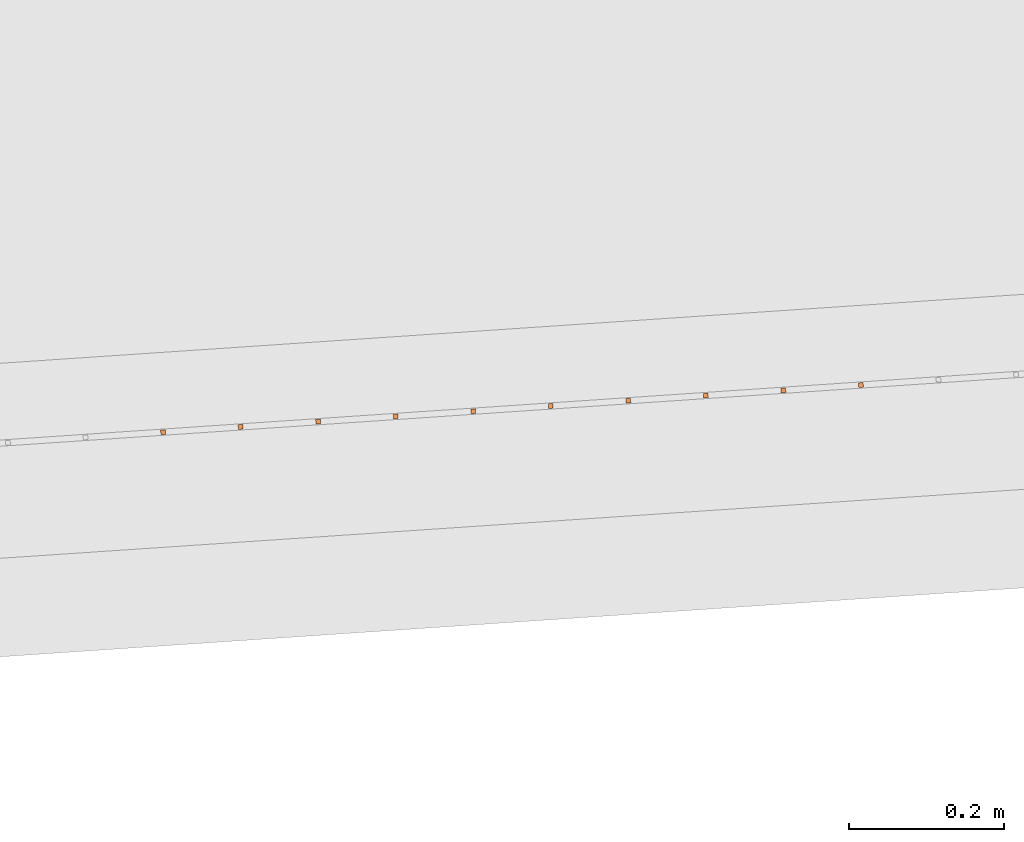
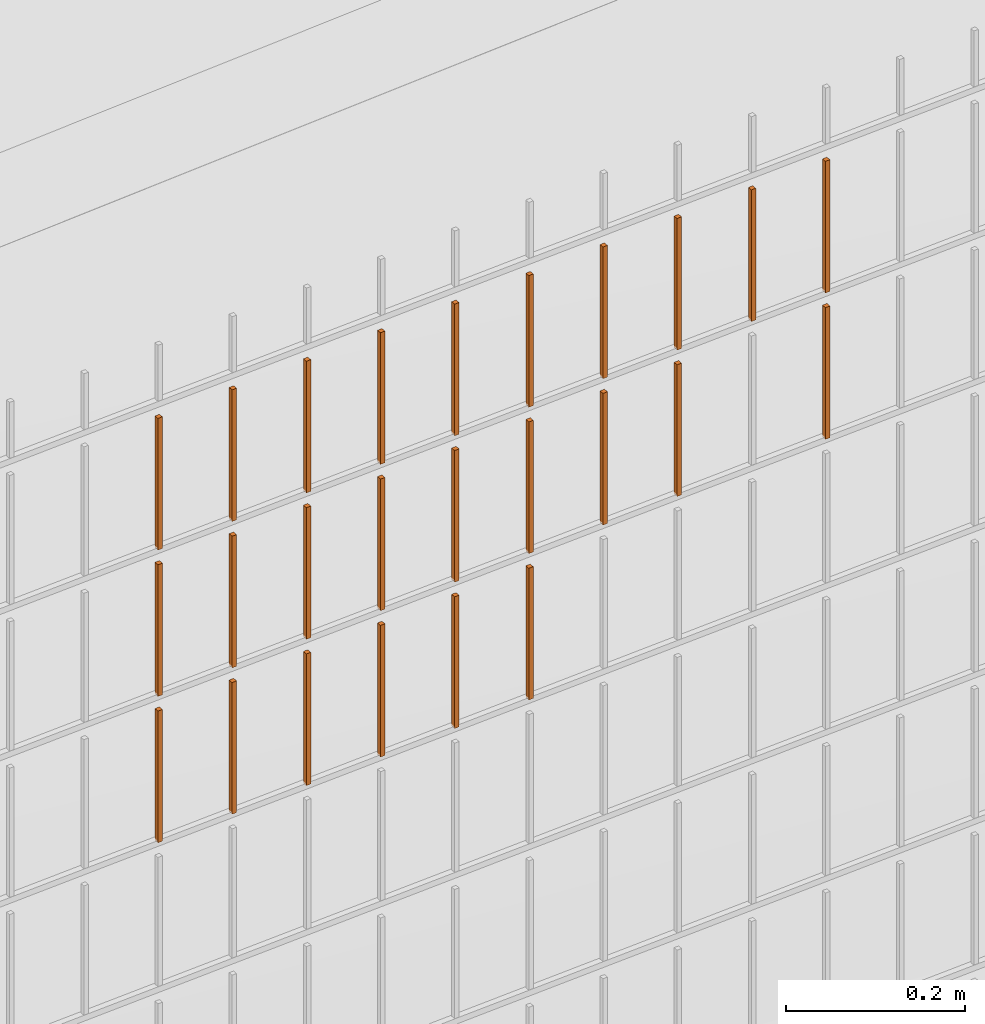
# One storey, part 391 of 1809: 25 proxies, 1 element without a shape of its own.
"""IFC2X3 building model written with IfcOpenShell, lengths in millimetres."""

from ifc_helpers import new_model, entity, si_unit, converted_unit, derived_unit, money_unit, direction, frame, origin_with_axes, place, context, subcontext, project, spatial, faceted_brep, source, transform, mapped, material, type_object, element, aggregate, save


model = new_model("IFC2X3")

# Units and contexts
model_context = context("Model", 3, precision=0.01, world=origin_with_axes(), true_north=direction((0.0, 1.0)))
body_context = subcontext(model_context, "Body", "Model", "MODEL_VIEW")
ifc_project = project(units=[si_unit("LENGTHUNIT", "METRE", prefix="MILLI"), si_unit("AREAUNIT", "SQUARE_METRE"), si_unit("VOLUMEUNIT", "CUBIC_METRE"), converted_unit("PLANEANGLEUNIT", "DEGREE", entity("IfcPlaneAngleMeasure", 0.0174532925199), si_unit("PLANEANGLEUNIT", "RADIAN"), dimensions=[0, 0, 0, 0, 0, 0, 0]), si_unit("SOLIDANGLEUNIT", "STERADIAN"), money_unit("EUR"), converted_unit("TIMEUNIT", "Year", entity("IfcTimeMeasure", 31556926.0), si_unit("TIMEUNIT", "SECOND"), dimensions=[0, 0, 1, 0, 0, 0, 0]), si_unit("MASSUNIT", "GRAM", prefix="KILO"), si_unit("THERMODYNAMICTEMPERATUREUNIT", "DEGREE_CELSIUS"), si_unit("LUMINOUSINTENSITYUNIT", "LUMEN"), si_unit("ENERGYUNIT", "JOULE", prefix="MEGA"), derived_unit("THERMALCONDUCTANCEUNIT", [(si_unit("POWERUNIT", "WATT"), 1), (si_unit("LENGTHUNIT", "METRE"), -1), (si_unit("THERMODYNAMICTEMPERATUREUNIT", "KELVIN"), -1)]), derived_unit("SPECIFICHEATCAPACITYUNIT", [(si_unit("ENERGYUNIT", "JOULE"), 1), (si_unit("MASSUNIT", "GRAM", prefix="KILO"), -1), (si_unit("THERMODYNAMICTEMPERATUREUNIT", "KELVIN"), -1)]), derived_unit("MASSDENSITYUNIT", [(si_unit("MASSUNIT", "GRAM", prefix="KILO"), 1), (si_unit("VOLUMEUNIT", "CUBIC_METRE"), -1)])], contexts=[model_context])

# Site, building, storey
site_placement = place(None, origin_with_axes())
site = spatial("IfcSite", under=ifc_project, at=site_placement, Name="Politse- ja Piirivalveameti ning Päästeameti ühishoone", CompositionType="ELEMENT")
building_placement = place(site_placement, origin_with_axes())
building = spatial("IfcBuilding", under=site, at=building_placement, Name="Politse- ja Piirivalveameti ning Päästeameti ühishoone", CompositionType="ELEMENT")
storey_placement = place(building_placement, origin_with_axes())
storey = spatial("IfcBuildingStorey", under=building, at=storey_placement, Name="Esimene korrus", CompositionType="ELEMENT", Elevation=0.0)

# Proxies
building_element_proxy_type_1 = type_object("IfcBuildingElementProxyType", Name="Railing Type", PredefinedType="NOTDEFINED")
proxy_1_placement = place(storey_placement, frame((89252.001212, -29183.4766571, 203.661247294), z_axis=(0.0, 0.0, 1.0), x_axis=(1.0, 0.0, 0.0)))
proxy_1 = element("IfcBuildingElementProxy", 1, at=proxy_1_placement, inside=storey, type_object=building_element_proxy_type_1, Name="PIIRDEAED")
ifc_material = material(Name="ET-03_Raud")
building_element_proxy_type_2 = type_object("IfcBuildingElementProxyType", Name="IfcBuildingElementProxy", PredefinedType="NOTDEFINED")
shared_shape_1 = source(origin_with_axes(), body_context, "Body", "Brep", [
    faceted_brep([(3.0, 3.0, -0.000752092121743), (-3.0, 3.0, -0.000752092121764), (-3.0, 3.0, 179.99926046), (3.0, 3.0, 179.99926046), (3.0, -3.0, 0.000752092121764), (-3.0, -3.0, 0.000752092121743), (-3.0, -3.0, 180.000764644), (3.0, -3.0, 180.000764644)], [[[0, 1, 2, 3]], [[0, 4, 5, 1]], [[1, 5, 6, 2]], [[3, 2, 6, 7]], [[4, 0, 3, 7]], [[5, 4, 7, 6]]]),
])
proxy_2_placement = place(proxy_1_placement, frame((-13595.7081064, -18216.1135358, 1423.81821062), z_axis=(0.0, 0.0, 1.0), x_axis=(1.0, 0.0, 0.0)))
proxy_2 = element("IfcBuildingElementProxy", 2, at=proxy_2_placement, type_object=building_element_proxy_type_2, material=ifc_material, Name="BALUSTER - 001", context=body_context, shape_type="MappedRepresentation", body=[
    mapped(shared_shape_1, transform((0.0, 0.0, 0.0), x_axis=(-0.0673926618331, 0.997726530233, 0.0), y_axis=(-0.997726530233, -0.0673926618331, 0.0), z_axis=(0.0, 0.0, 1.0))),
])
shared_shape_2 = source(origin_with_axes(), body_context, "Body", "Brep", [
    faceted_brep([(3.0, 3.0, -0.000752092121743), (-3.0, 3.0, -0.000752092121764), (-3.0, 3.0, 179.99926046), (3.0, 3.0, 179.99926046), (3.0, -3.0, 0.000752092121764), (-3.0, -3.0, 0.000752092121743), (-3.0, -3.0, 180.000764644), (3.0, -3.0, 180.000764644)], [[[0, 1, 2, 3]], [[0, 4, 5, 1]], [[1, 5, 6, 2]], [[3, 2, 6, 7]], [[4, 0, 3, 7]], [[5, 4, 7, 6]]]),
])
proxy_3_placement = place(proxy_1_placement, frame((-13595.7081064, -18216.1135358, 1823.81821062), z_axis=(0.0, 0.0, 1.0), x_axis=(1.0, 0.0, 0.0)))
proxy_3 = element("IfcBuildingElementProxy", 3, at=proxy_3_placement, type_object=building_element_proxy_type_2, material=ifc_material, Name="BALUSTER - 001", context=body_context, shape_type="MappedRepresentation", body=[
    mapped(shared_shape_2, transform((0.0, 0.0, 0.0), x_axis=(-0.0673926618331, 0.997726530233, 0.0), y_axis=(-0.997726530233, -0.0673926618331, 0.0), z_axis=(0.0, 0.0, 1.0))),
])
proxy_4_placement = place(proxy_1_placement, frame((-13795.2534124, -18229.5920682, 1823.76807115), z_axis=(0.0, 0.0, 1.0), x_axis=(1.0, 0.0, 0.0)))
proxy_4 = element("IfcBuildingElementProxy", 4, at=proxy_4_placement, type_object=building_element_proxy_type_2, material=ifc_material, Name="BALUSTER - 001", context=body_context, shape_type="MappedRepresentation", body=[
    mapped(shared_shape_2, transform((0.0, 0.0, 0.0), x_axis=(-0.0673926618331, 0.997726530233, 0.0), y_axis=(-0.997726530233, -0.0673926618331, 0.0), z_axis=(0.0, 0.0, 1.0))),
])
shared_shape_3 = source(origin_with_axes(), body_context, "Body", "Brep", [
    faceted_brep([(3.0, 3.0, -0.000752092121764), (-3.0, 3.0, -0.000752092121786), (-3.0, 3.0, 179.99926046), (3.0, 3.0, 179.99926046), (3.0, -3.0, 0.000752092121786), (-3.0, -3.0, 0.000752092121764), (-3.0, -3.0, 180.000764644), (3.0, -3.0, 180.000764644)], [[[0, 1, 2, 3]], [[0, 4, 5, 1]], [[1, 5, 6, 2]], [[3, 2, 6, 7]], [[4, 0, 3, 7]], [[5, 4, 7, 6]]]),
])
proxy_5_placement = place(proxy_1_placement, frame((-14094.5713715, -18249.8098668, 1823.69286193), z_axis=(0.0, 0.0, 1.0), x_axis=(1.0, 0.0, 0.0)))
proxy_5 = element("IfcBuildingElementProxy", 5, at=proxy_5_placement, type_object=building_element_proxy_type_2, material=ifc_material, Name="BALUSTER - 001", context=body_context, shape_type="MappedRepresentation", body=[
    mapped(shared_shape_3, transform((0.0, 0.0, 0.0), x_axis=(-0.0673926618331, 0.997726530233, 0.0), y_axis=(-0.997726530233, -0.0673926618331, 0.0), z_axis=(0.0, 0.0, 1.0))),
])
shared_shape_4 = source(origin_with_axes(), body_context, "Body", "Brep", [
    faceted_brep([(3.0, 3.0, -0.000752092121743), (-3.0, 3.0, -0.000752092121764), (-3.0, 3.0, 179.99926046), (3.0, 3.0, 179.99926046), (3.0, -3.0, 0.000752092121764), (-3.0, -3.0, 0.000752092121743), (-3.0, -3.0, 180.000764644), (3.0, -3.0, 180.000764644)], [[[0, 1, 2, 3]], [[0, 4, 5, 1]], [[1, 5, 6, 2]], [[3, 2, 6, 7]], [[4, 0, 3, 7]], [[5, 4, 7, 6]]]),
])
proxy_6_placement = place(proxy_1_placement, frame((-13994.7987184, -18243.0706006, 1823.71793167), z_axis=(0.0, 0.0, 1.0), x_axis=(1.0, 0.0, 0.0)))
proxy_6 = element("IfcBuildingElementProxy", 6, at=proxy_6_placement, type_object=building_element_proxy_type_2, material=ifc_material, Name="BALUSTER - 001", context=body_context, shape_type="MappedRepresentation", body=[
    mapped(shared_shape_4, transform((0.0, 0.0, 0.0), x_axis=(-0.0673926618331, 0.997726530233, 0.0), y_axis=(-0.997726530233, -0.0673926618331, 0.0), z_axis=(0.0, 0.0, 1.0))),
])
shared_shape_5 = source(origin_with_axes(), body_context, "Body", "Brep", [
    faceted_brep([(3.0, 3.0, -0.000752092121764), (-3.0, 3.0, -0.000752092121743), (-3.0, 3.0, 179.99926046), (3.0, 3.0, 179.99926046), (3.0, -3.0, 0.000752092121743), (-3.0, -3.0, 0.000752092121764), (-3.0, -3.0, 180.000764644), (3.0, -3.0, 180.000764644)], [[[0, 1, 2, 3]], [[0, 4, 5, 1]], [[1, 5, 6, 2]], [[3, 2, 6, 7]], [[4, 0, 3, 7]], [[5, 4, 7, 6]]]),
])
proxy_7_placement = place(proxy_1_placement, frame((-13196.6174943, -18189.1564711, 1823.91848957), z_axis=(0.0, 0.0, 1.0), x_axis=(1.0, 0.0, 0.0)))
proxy_7 = element("IfcBuildingElementProxy", 7, at=proxy_7_placement, type_object=building_element_proxy_type_2, material=ifc_material, Name="BALUSTER - 001", context=body_context, shape_type="MappedRepresentation", body=[
    mapped(shared_shape_5, transform((0.0, 0.0, 0.0), x_axis=(-0.0673926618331, 0.997726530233, 0.0), y_axis=(-0.997726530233, -0.0673926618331, 0.0), z_axis=(0.0, 0.0, 1.0))),
])
shared_shape_6 = source(origin_with_axes(), body_context, "Body", "Brep", [
    faceted_brep([(3.0, 3.0, -0.000752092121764), (-3.0, 3.0, -0.000752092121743), (-3.0, 3.0, 179.99926046), (3.0, 3.0, 179.99926046), (3.0, -3.0, 0.000752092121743), (-3.0, -3.0, 0.000752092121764), (-3.0, -3.0, 180.000764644), (3.0, -3.0, 180.000764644)], [[[0, 1, 2, 3]], [[0, 4, 5, 1]], [[1, 5, 6, 2]], [[3, 2, 6, 7]], [[4, 0, 3, 7]], [[5, 4, 7, 6]]]),
])
proxy_8_placement = place(proxy_1_placement, frame((-13396.1628003, -18202.6350035, 1623.8683501), z_axis=(0.0, 0.0, 1.0), x_axis=(1.0, 0.0, 0.0)))
proxy_8 = element("IfcBuildingElementProxy", 8, at=proxy_8_placement, type_object=building_element_proxy_type_2, material=ifc_material, Name="BALUSTER - 001", context=body_context, shape_type="MappedRepresentation", body=[
    mapped(shared_shape_6, transform((0.0, 0.0, 0.0), x_axis=(-0.0673926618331, 0.997726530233, 0.0), y_axis=(-0.997726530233, -0.0673926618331, 0.0), z_axis=(0.0, 0.0, 1.0))),
])
shared_shape_7 = source(origin_with_axes(), body_context, "Body", "Brep", [
    faceted_brep([(3.0, 3.0, -0.000752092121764), (-3.0, 3.0, -0.000752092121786), (-3.0, 3.0, 179.99926046), (3.0, 3.0, 179.99926046), (3.0, -3.0, 0.000752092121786), (-3.0, -3.0, 0.000752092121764), (-3.0, -3.0, 180.000764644), (3.0, -3.0, 180.000764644)], [[[0, 1, 2, 3]], [[0, 4, 5, 1]], [[1, 5, 6, 2]], [[3, 2, 6, 7]], [[4, 0, 3, 7]], [[5, 4, 7, 6]]]),
])
proxy_9_placement = place(proxy_1_placement, frame((-14094.5713715, -18249.8098668, 1423.69286193), z_axis=(0.0, 0.0, 1.0), x_axis=(1.0, 0.0, 0.0)))
proxy_9 = element("IfcBuildingElementProxy", 9, at=proxy_9_placement, type_object=building_element_proxy_type_2, material=ifc_material, Name="BALUSTER - 001", context=body_context, shape_type="MappedRepresentation", body=[
    mapped(shared_shape_7, transform((0.0, 0.0, 0.0), x_axis=(-0.0673926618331, 0.997726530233, 0.0), y_axis=(-0.997726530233, -0.0673926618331, 0.0), z_axis=(0.0, 0.0, 1.0))),
])
proxy_10_placement = place(proxy_1_placement, frame((-14094.5713715, -18249.8098668, 1623.69286193), z_axis=(0.0, 0.0, 1.0), x_axis=(1.0, 0.0, 0.0)))
proxy_10 = element("IfcBuildingElementProxy", 10, at=proxy_10_placement, type_object=building_element_proxy_type_2, material=ifc_material, Name="BALUSTER - 001", context=body_context, shape_type="MappedRepresentation", body=[
    mapped(shared_shape_7, transform((0.0, 0.0, 0.0), x_axis=(-0.0673926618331, 0.997726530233, 0.0), y_axis=(-0.997726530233, -0.0673926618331, 0.0), z_axis=(0.0, 0.0, 1.0))),
])
shared_shape_8 = source(origin_with_axes(), body_context, "Body", "Brep", [
    faceted_brep([(3.0, 3.0, -0.000752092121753), (-3.0, 3.0, -0.000752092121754), (-3.0, 3.0, 179.99926046), (3.0, 3.0, 179.99926046), (3.0, -3.0, 0.000752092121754), (-3.0, -3.0, 0.000752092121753), (-3.0, -3.0, 180.000764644), (3.0, -3.0, 180.000764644)], [[[0, 1, 2, 3]], [[0, 4, 5, 1]], [[1, 5, 6, 2]], [[3, 2, 6, 7]], [[4, 0, 3, 7]], [[5, 4, 7, 6]]]),
])
proxy_11_placement = place(proxy_1_placement, frame((-13495.9354533, -18209.3742697, 1823.84328036), z_axis=(0.0, 0.0, 1.0), x_axis=(1.0, 0.0, 0.0)))
proxy_11 = element("IfcBuildingElementProxy", 11, at=proxy_11_placement, type_object=building_element_proxy_type_2, material=ifc_material, Name="BALUSTER - 001", context=body_context, shape_type="MappedRepresentation", body=[
    mapped(shared_shape_8, transform((0.0, 0.0, 0.0), x_axis=(-0.0673926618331, 0.997726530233, 0.0), y_axis=(-0.997726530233, -0.0673926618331, 0.0), z_axis=(0.0, 0.0, 1.0))),
])
shared_shape_9 = source(origin_with_axes(), body_context, "Body", "Brep", [
    faceted_brep([(3.0, 3.0, -0.000752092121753), (-3.0, 3.0, -0.000752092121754), (-3.0, 3.0, 179.99926046), (3.0, 3.0, 179.99926046), (3.0, -3.0, 0.000752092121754), (-3.0, -3.0, 0.000752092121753), (-3.0, -3.0, 180.000764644), (3.0, -3.0, 180.000764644)], [[[0, 1, 2, 3]], [[0, 4, 5, 1]], [[1, 5, 6, 2]], [[3, 2, 6, 7]], [[4, 0, 3, 7]], [[5, 4, 7, 6]]]),
])
proxy_12_placement = place(proxy_1_placement, frame((-13495.9354533, -18209.3742697, 1623.84328036), z_axis=(0.0, 0.0, 1.0), x_axis=(1.0, 0.0, 0.0)))
proxy_12 = element("IfcBuildingElementProxy", 12, at=proxy_12_placement, type_object=building_element_proxy_type_2, material=ifc_material, Name="BALUSTER - 001", context=body_context, shape_type="MappedRepresentation", body=[
    mapped(shared_shape_9, transform((0.0, 0.0, 0.0), x_axis=(-0.0673926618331, 0.997726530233, 0.0), y_axis=(-0.997726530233, -0.0673926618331, 0.0), z_axis=(0.0, 0.0, 1.0))),
])
shared_shape_10 = source(origin_with_axes(), body_context, "Body", "Brep", [
    faceted_brep([(3.0, 3.0, -0.000752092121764), (-3.0, 3.0, -0.000752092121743), (-3.0, 3.0, 179.99926046), (3.0, 3.0, 179.99926046), (3.0, -3.0, 0.000752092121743), (-3.0, -3.0, 0.000752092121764), (-3.0, -3.0, 180.000764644), (3.0, -3.0, 180.000764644)], [[[0, 1, 2, 3]], [[0, 4, 5, 1]], [[1, 5, 6, 2]], [[3, 2, 6, 7]], [[4, 0, 3, 7]], [[5, 4, 7, 6]]]),
])
proxy_13_placement = place(proxy_1_placement, frame((-13196.6174943, -18189.1564711, 1623.91848957), z_axis=(0.0, 0.0, 1.0), x_axis=(1.0, 0.0, 0.0)))
proxy_13 = element("IfcBuildingElementProxy", 13, at=proxy_13_placement, type_object=building_element_proxy_type_2, material=ifc_material, Name="BALUSTER - 001", context=body_context, shape_type="MappedRepresentation", body=[
    mapped(shared_shape_10, transform((0.0, 0.0, 0.0), x_axis=(-0.0673926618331, 0.997726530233, 0.0), y_axis=(-0.997726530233, -0.0673926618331, 0.0), z_axis=(0.0, 0.0, 1.0))),
])
proxy_14_placement = place(proxy_1_placement, frame((-13396.1628003, -18202.6350035, 1823.8683501), z_axis=(0.0, 0.0, 1.0), x_axis=(1.0, 0.0, 0.0)))
proxy_14 = element("IfcBuildingElementProxy", 14, at=proxy_14_placement, type_object=building_element_proxy_type_2, material=ifc_material, Name="BALUSTER - 001", context=body_context, shape_type="MappedRepresentation", body=[
    mapped(shared_shape_10, transform((0.0, 0.0, 0.0), x_axis=(-0.0673926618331, 0.997726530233, 0.0), y_axis=(-0.997726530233, -0.0673926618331, 0.0), z_axis=(0.0, 0.0, 1.0))),
])
shared_shape_11 = source(origin_with_axes(), body_context, "Body", "Brep", [
    faceted_brep([(3.0, 3.0, -0.000752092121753), (-3.0, 3.0, -0.000752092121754), (-3.0, 3.0, 179.99926046), (3.0, 3.0, 179.99926046), (3.0, -3.0, 0.000752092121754), (-3.0, -3.0, 0.000752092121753), (-3.0, -3.0, 180.000764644), (3.0, -3.0, 180.000764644)], [[[0, 1, 2, 3]], [[0, 4, 5, 1]], [[1, 5, 6, 2]], [[3, 2, 6, 7]], [[4, 0, 3, 7]], [[5, 4, 7, 6]]]),
])
proxy_15_placement = place(proxy_1_placement, frame((-13895.0260654, -18236.3313344, 1823.74300141), z_axis=(0.0, 0.0, 1.0), x_axis=(1.0, 0.0, 0.0)))
proxy_15 = element("IfcBuildingElementProxy", 15, at=proxy_15_placement, type_object=building_element_proxy_type_2, material=ifc_material, Name="BALUSTER - 001", context=body_context, shape_type="MappedRepresentation", body=[
    mapped(shared_shape_11, transform((0.0, 0.0, 0.0), x_axis=(-0.0673926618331, 0.997726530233, 0.0), y_axis=(-0.997726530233, -0.0673926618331, 0.0), z_axis=(0.0, 0.0, 1.0))),
])
shared_shape_12 = source(origin_with_axes(), body_context, "Body", "Brep", [
    faceted_brep([(3.0, 3.0, -0.000752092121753), (-3.0, 3.0, -0.000752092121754), (-3.0, 3.0, 179.99926046), (3.0, 3.0, 179.99926046), (3.0, -3.0, 0.000752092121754), (-3.0, -3.0, 0.000752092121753), (-3.0, -3.0, 180.000764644), (3.0, -3.0, 180.000764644)], [[[0, 1, 2, 3]], [[0, 4, 5, 1]], [[1, 5, 6, 2]], [[3, 2, 6, 7]], [[4, 0, 3, 7]], [[5, 4, 7, 6]]]),
])
proxy_16_placement = place(proxy_1_placement, frame((-13895.0260654, -18236.3313344, 1423.74300141), z_axis=(0.0, 0.0, 1.0), x_axis=(1.0, 0.0, 0.0)))
proxy_16 = element("IfcBuildingElementProxy", 16, at=proxy_16_placement, type_object=building_element_proxy_type_2, material=ifc_material, Name="BALUSTER - 001", context=body_context, shape_type="MappedRepresentation", body=[
    mapped(shared_shape_12, transform((0.0, 0.0, 0.0), x_axis=(-0.0673926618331, 0.997726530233, 0.0), y_axis=(-0.997726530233, -0.0673926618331, 0.0), z_axis=(0.0, 0.0, 1.0))),
])
shared_shape_13 = source(origin_with_axes(), body_context, "Body", "Brep", [
    faceted_brep([(3.0, 3.0, -0.000752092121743), (-3.0, 3.0, -0.000752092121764), (-3.0, 3.0, 179.99926046), (3.0, 3.0, 179.99926046), (3.0, -3.0, 0.000752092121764), (-3.0, -3.0, 0.000752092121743), (-3.0, -3.0, 180.000764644), (3.0, -3.0, 180.000764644)], [[[0, 1, 2, 3]], [[0, 4, 5, 1]], [[1, 5, 6, 2]], [[3, 2, 6, 7]], [[4, 0, 3, 7]], [[5, 4, 7, 6]]]),
])
proxy_17_placement = place(proxy_1_placement, frame((-13296.3901473, -18195.8957373, 1823.89341983), z_axis=(0.0, 0.0, 1.0), x_axis=(1.0, 0.0, 0.0)))
proxy_17 = element("IfcBuildingElementProxy", 17, at=proxy_17_placement, type_object=building_element_proxy_type_2, material=ifc_material, Name="BALUSTER - 001", context=body_context, shape_type="MappedRepresentation", body=[
    mapped(shared_shape_13, transform((0.0, 0.0, 0.0), x_axis=(-0.0673926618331, 0.997726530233, 0.0), y_axis=(-0.997726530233, -0.0673926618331, 0.0), z_axis=(0.0, 0.0, 1.0))),
])
shared_shape_14 = source(origin_with_axes(), body_context, "Body", "Brep", [
    faceted_brep([(3.0, 3.0, -0.000752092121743), (-3.0, 3.0, -0.000752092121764), (-3.0, 3.0, 179.99926046), (3.0, 3.0, 179.99926046), (3.0, -3.0, 0.000752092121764), (-3.0, -3.0, 0.000752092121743), (-3.0, -3.0, 180.000764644), (3.0, -3.0, 180.000764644)], [[[0, 1, 2, 3]], [[0, 4, 5, 1]], [[1, 5, 6, 2]], [[3, 2, 6, 7]], [[4, 0, 3, 7]], [[5, 4, 7, 6]]]),
])
proxy_18_placement = place(proxy_1_placement, frame((-13795.2534124, -18229.5920682, 1423.76807115), z_axis=(0.0, 0.0, 1.0), x_axis=(1.0, 0.0, 0.0)))
proxy_18 = element("IfcBuildingElementProxy", 18, at=proxy_18_placement, type_object=building_element_proxy_type_2, material=ifc_material, Name="BALUSTER - 001", context=body_context, shape_type="MappedRepresentation", body=[
    mapped(shared_shape_14, transform((0.0, 0.0, 0.0), x_axis=(-0.0673926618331, 0.997726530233, 0.0), y_axis=(-0.997726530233, -0.0673926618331, 0.0), z_axis=(0.0, 0.0, 1.0))),
])
proxy_19_placement = place(proxy_1_placement, frame((-13795.2534124, -18229.5920682, 1623.76807115), z_axis=(0.0, 0.0, 1.0), x_axis=(1.0, 0.0, 0.0)))
proxy_19 = element("IfcBuildingElementProxy", 19, at=proxy_19_placement, type_object=building_element_proxy_type_2, material=ifc_material, Name="BALUSTER - 001", context=body_context, shape_type="MappedRepresentation", body=[
    mapped(shared_shape_14, transform((0.0, 0.0, 0.0), x_axis=(-0.0673926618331, 0.997726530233, 0.0), y_axis=(-0.997726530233, -0.0673926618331, 0.0), z_axis=(0.0, 0.0, 1.0))),
])
shared_shape_15 = source(origin_with_axes(), body_context, "Body", "Brep", [
    faceted_brep([(3.0, 3.0, -0.000752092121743), (-3.0, 3.0, -0.000752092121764), (-3.0, 3.0, 179.99926046), (3.0, 3.0, 179.99926046), (3.0, -3.0, 0.000752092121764), (-3.0, -3.0, 0.000752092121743), (-3.0, -3.0, 180.000764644), (3.0, -3.0, 180.000764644)], [[[0, 1, 2, 3]], [[0, 4, 5, 1]], [[1, 5, 6, 2]], [[3, 2, 6, 7]], [[4, 0, 3, 7]], [[5, 4, 7, 6]]]),
])
proxy_20_placement = place(proxy_1_placement, frame((-13595.7081064, -18216.1135358, 1623.81821062), z_axis=(0.0, 0.0, 1.0), x_axis=(1.0, 0.0, 0.0)))
proxy_20 = element("IfcBuildingElementProxy", 20, at=proxy_20_placement, type_object=building_element_proxy_type_2, material=ifc_material, Name="BALUSTER - 001", context=body_context, shape_type="MappedRepresentation", body=[
    mapped(shared_shape_15, transform((0.0, 0.0, 0.0), x_axis=(-0.0673926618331, 0.997726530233, 0.0), y_axis=(-0.997726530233, -0.0673926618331, 0.0), z_axis=(0.0, 0.0, 1.0))),
])
shared_shape_16 = source(origin_with_axes(), body_context, "Body", "Brep", [
    faceted_brep([(3.0, 3.0, -0.000752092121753), (-3.0, 3.0, -0.000752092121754), (-3.0, 3.0, 179.99926046), (3.0, 3.0, 179.99926046), (3.0, -3.0, 0.000752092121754), (-3.0, -3.0, 0.000752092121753), (-3.0, -3.0, 180.000764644), (3.0, -3.0, 180.000764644)], [[[0, 1, 2, 3]], [[0, 4, 5, 1]], [[1, 5, 6, 2]], [[3, 2, 6, 7]], [[4, 0, 3, 7]], [[5, 4, 7, 6]]]),
])
proxy_21_placement = place(proxy_1_placement, frame((-13895.0260654, -18236.3313344, 1623.74300141), z_axis=(0.0, 0.0, 1.0), x_axis=(1.0, 0.0, 0.0)))
proxy_21 = element("IfcBuildingElementProxy", 21, at=proxy_21_placement, type_object=building_element_proxy_type_2, material=ifc_material, Name="BALUSTER - 001", context=body_context, shape_type="MappedRepresentation", body=[
    mapped(shared_shape_16, transform((0.0, 0.0, 0.0), x_axis=(-0.0673926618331, 0.997726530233, 0.0), y_axis=(-0.997726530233, -0.0673926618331, 0.0), z_axis=(0.0, 0.0, 1.0))),
])
shared_shape_17 = source(origin_with_axes(), body_context, "Body", "Brep", [
    faceted_brep([(3.0, 3.0, -0.000752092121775), (-3.0, 3.0, -0.000752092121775), (-3.0, 3.0, 179.99926046), (3.0, 3.0, 179.99926046), (3.0, -3.0, 0.000752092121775), (-3.0, -3.0, 0.000752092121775), (-3.0, -3.0, 180.000764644), (3.0, -3.0, 180.000764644)], [[[0, 1, 2, 3]], [[0, 4, 5, 1]], [[1, 5, 6, 2]], [[3, 2, 6, 7]], [[4, 0, 3, 7]], [[5, 4, 7, 6]]]),
])
proxy_22_placement = place(proxy_1_placement, frame((-13695.4807594, -18222.852802, 1823.79314088), z_axis=(0.0, 0.0, 1.0), x_axis=(1.0, 0.0, 0.0)))
proxy_22 = element("IfcBuildingElementProxy", 22, at=proxy_22_placement, type_object=building_element_proxy_type_2, material=ifc_material, Name="BALUSTER - 001", context=body_context, shape_type="MappedRepresentation", body=[
    mapped(shared_shape_17, transform((0.0, 0.0, 0.0), x_axis=(-0.0673926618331, 0.997726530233, 0.0), y_axis=(-0.997726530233, -0.0673926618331, 0.0), z_axis=(0.0, 0.0, 1.0))),
])
shared_shape_18 = source(origin_with_axes(), body_context, "Body", "Brep", [
    faceted_brep([(3.0, 3.0, -0.000752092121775), (-3.0, 3.0, -0.000752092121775), (-3.0, 3.0, 179.99926046), (3.0, 3.0, 179.99926046), (3.0, -3.0, 0.000752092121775), (-3.0, -3.0, 0.000752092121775), (-3.0, -3.0, 180.000764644), (3.0, -3.0, 180.000764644)], [[[0, 1, 2, 3]], [[0, 4, 5, 1]], [[1, 5, 6, 2]], [[3, 2, 6, 7]], [[4, 0, 3, 7]], [[5, 4, 7, 6]]]),
])
proxy_23_placement = place(proxy_1_placement, frame((-13695.4807594, -18222.852802, 1423.79314088), z_axis=(0.0, 0.0, 1.0), x_axis=(1.0, 0.0, 0.0)))
proxy_23 = element("IfcBuildingElementProxy", 23, at=proxy_23_placement, type_object=building_element_proxy_type_2, material=ifc_material, Name="BALUSTER - 001", context=body_context, shape_type="MappedRepresentation", body=[
    mapped(shared_shape_18, transform((0.0, 0.0, 0.0), x_axis=(-0.0673926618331, 0.997726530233, 0.0), y_axis=(-0.997726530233, -0.0673926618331, 0.0), z_axis=(0.0, 0.0, 1.0))),
])
proxy_24_placement = place(proxy_1_placement, frame((-13695.4807594, -18222.852802, 1623.79314088), z_axis=(0.0, 0.0, 1.0), x_axis=(1.0, 0.0, 0.0)))
proxy_24 = element("IfcBuildingElementProxy", 24, at=proxy_24_placement, type_object=building_element_proxy_type_2, material=ifc_material, Name="BALUSTER - 001", context=body_context, shape_type="MappedRepresentation", body=[
    mapped(shared_shape_18, transform((0.0, 0.0, 0.0), x_axis=(-0.0673926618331, 0.997726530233, 0.0), y_axis=(-0.997726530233, -0.0673926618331, 0.0), z_axis=(0.0, 0.0, 1.0))),
])
shared_shape_19 = source(origin_with_axes(), body_context, "Body", "Brep", [
    faceted_brep([(3.0, 3.0, -0.000752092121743), (-3.0, 3.0, -0.000752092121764), (-3.0, 3.0, 179.99926046), (3.0, 3.0, 179.99926046), (3.0, -3.0, 0.000752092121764), (-3.0, -3.0, 0.000752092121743), (-3.0, -3.0, 180.000764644), (3.0, -3.0, 180.000764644)], [[[0, 1, 2, 3]], [[0, 4, 5, 1]], [[1, 5, 6, 2]], [[3, 2, 6, 7]], [[4, 0, 3, 7]], [[5, 4, 7, 6]]]),
])
proxy_25_placement = place(proxy_1_placement, frame((-13994.7987184, -18243.0706006, 1423.71793167), z_axis=(0.0, 0.0, 1.0), x_axis=(1.0, 0.0, 0.0)))
proxy_25 = element("IfcBuildingElementProxy", 25, at=proxy_25_placement, type_object=building_element_proxy_type_2, material=ifc_material, Name="BALUSTER - 001", context=body_context, shape_type="MappedRepresentation", body=[
    mapped(shared_shape_19, transform((0.0, 0.0, 0.0), x_axis=(-0.0673926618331, 0.997726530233, 0.0), y_axis=(-0.997726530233, -0.0673926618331, 0.0), z_axis=(0.0, 0.0, 1.0))),
])
proxy_26_placement = place(proxy_1_placement, frame((-13994.7987184, -18243.0706006, 1623.71793167), z_axis=(0.0, 0.0, 1.0), x_axis=(1.0, 0.0, 0.0)))
proxy_26 = element("IfcBuildingElementProxy", 26, at=proxy_26_placement, type_object=building_element_proxy_type_2, material=ifc_material, Name="BALUSTER - 001", context=body_context, shape_type="MappedRepresentation", body=[
    mapped(shared_shape_19, transform((0.0, 0.0, 0.0), x_axis=(-0.0673926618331, 0.997726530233, 0.0), y_axis=(-0.997726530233, -0.0673926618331, 0.0), z_axis=(0.0, 0.0, 1.0))),
])
aggregate(proxy_1, [proxy_2, proxy_23, proxy_18, proxy_16, proxy_25, proxy_9, proxy_13, proxy_8, proxy_12, proxy_20, proxy_24, proxy_19, proxy_21, proxy_26, proxy_10, proxy_7, proxy_17, proxy_14, proxy_11, proxy_3, proxy_22, proxy_4, proxy_15, proxy_6, proxy_5])

save(model, "model.ifc")
